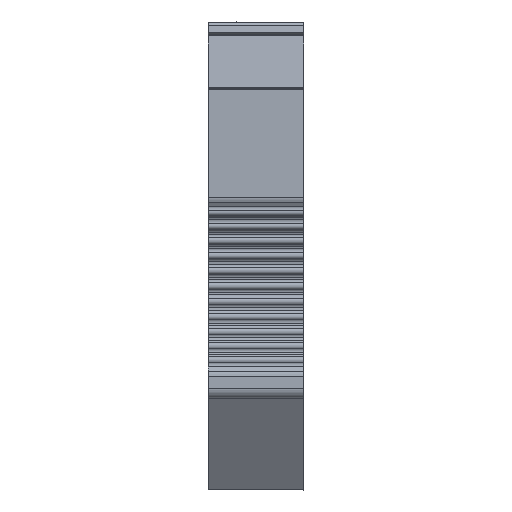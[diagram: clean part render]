
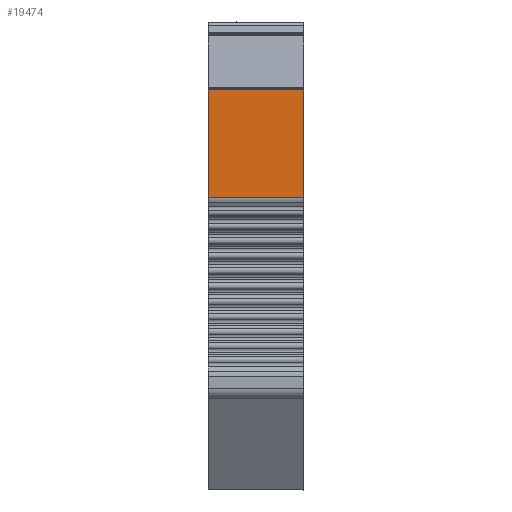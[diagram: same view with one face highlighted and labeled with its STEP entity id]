
A CAD part, left-side view. The second image highlights one B-rep face of the part: STEP entity #19474.
In plain terms, the highlighted planar face has unit normal (-1, 0, 0).
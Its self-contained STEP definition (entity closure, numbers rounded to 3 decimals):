
#800=DIRECTION('',(0.,0.,1.));
#801=VECTOR('',#800,11.471);
#802=CARTESIAN_POINT('',(-1.676,0.,
-18.618));
#803=LINE('',#802,#801);
#4761=DIRECTION('',(0.,1.,0.));
#4762=VECTOR('',#4761,10.15);
#4763=CARTESIAN_POINT('',(-1.676,0.,
-7.147));
#4764=LINE('',#4763,#4762);
#4769=DIRECTION('',(0.,0.,1.));
#4770=VECTOR('',#4769,11.471);
#4771=CARTESIAN_POINT('',(-1.676,10.15,
-18.618));
#4772=LINE('',#4771,#4770);
#4777=DIRECTION('',(0.,-1.,0.));
#4778=VECTOR('',#4777,10.15);
#4779=CARTESIAN_POINT('',(-1.676,10.15,
-18.618));
#4780=LINE('',#4779,#4778);
#11483=CARTESIAN_POINT('',(-1.676,0.,
-18.618));
#11484=VERTEX_POINT('',#11483);
#11485=CARTESIAN_POINT('',(-1.676,0.,
-7.147));
#11486=VERTEX_POINT('',#11485);
#12041=CARTESIAN_POINT('',(-1.676,10.15,
-7.147));
#12042=VERTEX_POINT('',#12041);
#12043=CARTESIAN_POINT('',(-1.676,10.15,
-18.618));
#12044=VERTEX_POINT('',#12043);
#19462=CARTESIAN_POINT('',(-1.676,-0.292,
-18.942));
#19463=DIRECTION('',(-1.,0.,0.));
#19464=DIRECTION('',(0.,0.,1.));
#19465=AXIS2_PLACEMENT_3D('',#19462,#19463,#19464);
#19466=PLANE('',#19465);
#19467=ORIENTED_EDGE('',*,*,#14690,.F.);
#19469=ORIENTED_EDGE('',*,*,#19468,.F.);
#19470=ORIENTED_EDGE('',*,*,#16861,.T.);
#19471=ORIENTED_EDGE('',*,*,#19455,.F.);
#19472=EDGE_LOOP('',(#19467,#19469,#19470,#19471));
#19473=FACE_OUTER_BOUND('',#19472,.F.);
#19474=ADVANCED_FACE('',(#19473),#19466,.T.);
#14690=EDGE_CURVE('',#11484,#11486,#803,.T.);
#16861=EDGE_CURVE('',#12044,#12042,#4772,.T.);
#19455=EDGE_CURVE('',#11486,#12042,#4764,.T.);
#19468=EDGE_CURVE('',#12044,#11484,#4780,.T.);
